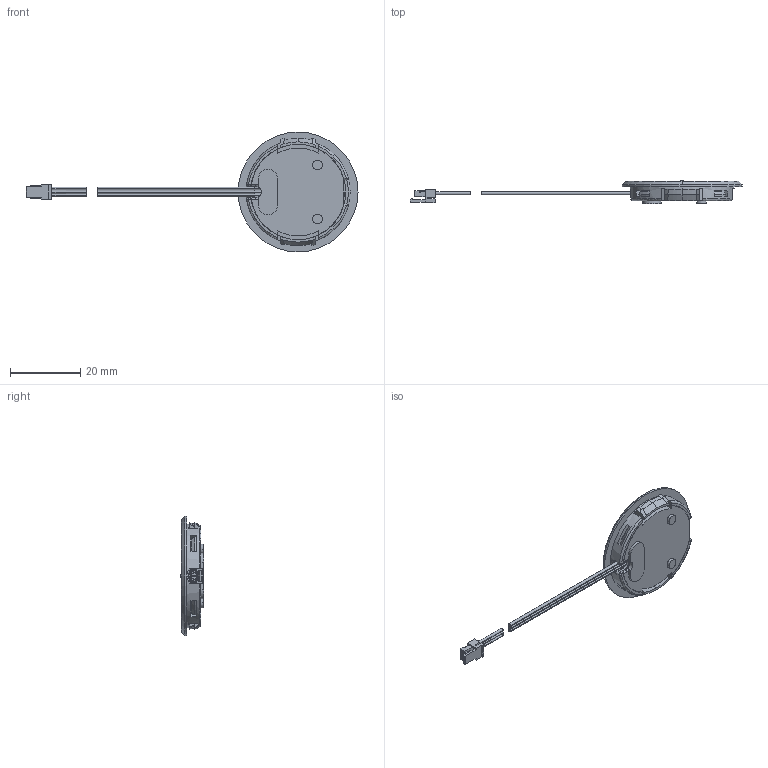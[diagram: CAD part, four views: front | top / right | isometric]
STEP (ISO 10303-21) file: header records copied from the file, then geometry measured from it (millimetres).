
FILE_DESCRIPTION (( 'STEP AP203' ), '1' );
FILE_NAME ('MultiSwitch_Touchdimmer_sw_24.STEP', '2024-12-03T05:40:21', ( '' ), ( '' ), 'SwSTEP 2.0', 'SolidWorks 2023', '' );
FILE_SCHEMA (( 'CONFIG_CONTROL_DESIGN' ));
Length unit declared in the file: millimetre
Products named in the file (7): Silikonklebepunkt; MultiSwitch_Touchdimmer_sw_24; 2550101_Pr2601_OT_Touch_Sensor_black; 1963902_Pr02601_Glaswinkelboarddisc_II; 4728801_Pr2601_PCB_MultiSwitch_Touch_Sensor_SSAL-Series_PCB in black; Stecker_A1005-HA3P_getr.; 2550001_Pr2601_UT_Touch_Sensor_25.500.02
Assembly tree (6 placements, depth 2):
  MultiSwitch_Touchdimmer_sw_24
    2550101_Pr2601_OT_Touch_Sensor_black
    1963902_Pr02601_Glaswinkelboarddisc_II
    4728801_Pr2601_PCB_MultiSwitch_Touch_Sensor_SSAL-Series_PCB in black
    2550001_Pr2601_UT_Touch_Sensor_25.500.02
    Stecker_A1005-HA3P_getr.
    Silikonklebepunkt
Bounding box: 94.2 x 6.6 x 34 mm (x, y, z)
Volume: 2845 mm3; surface area: 6351.5 mm2
Topology: 9 solids, 9 shells, 633 faces, 1649 edges, 1072 vertices
Faces by surface type: plane 388, cylinder 133, bspline 54, cone 33, torus 21, sphere 4
Entity records: 22454 total; most frequent: CARTESIAN_POINT 6288, ORIENTED_EDGE 3294, DIRECTION 3063, EDGE_CURVE 1647, VECTOR 1089, LINE 1089, VERTEX_POINT 1072, AXIS2_PLACEMENT_3D 987
